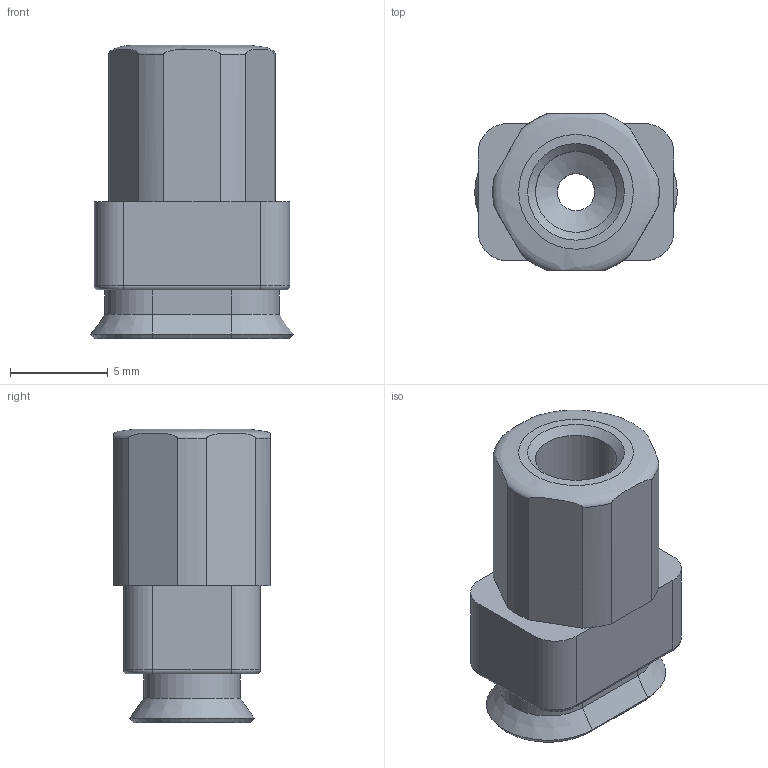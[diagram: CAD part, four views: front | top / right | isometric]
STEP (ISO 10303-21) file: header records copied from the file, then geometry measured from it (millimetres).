
FILE_DESCRIPTION( ( 'Unknown' ), '1' );
FILE_NAME( 'D:/New PAD/PAD-VOU/Part/STEP/VOU 6X10_M5F.stp', 'Unknown', ( 'Unknown' ), ( 'Unknown' ), 'XStep 1.0', 'Unknown', ' ' );
FILE_SCHEMA( ( 'automotive_design' ) );
Length unit declared in the file: millimetre
Products named in the file (1): 6X10_STP
Bounding box: 10.35 x 8 x 15 mm (x, y, z)
Volume: 716.7 mm3; surface area: 703.3 mm2
Topology: 1 solids, 1 shells, 55 faces, 133 edges, 82 vertices
Faces by surface type: plane 24, cylinder 20, cone 6, torus 4, revolution 1
Full cylindrical faces by diameter (mm): 1.9 x1, 3 x1, 4.134 x2
Entity records: 2112 total; most frequent: CARTESIAN_POINT 399, DIRECTION 279, ORIENTED_EDGE 242, EDGE_CURVE 121, AXIS2_PLACEMENT_3D 108, VERTEX_POINT 77, EDGE_LOOP 66, LINE 62
